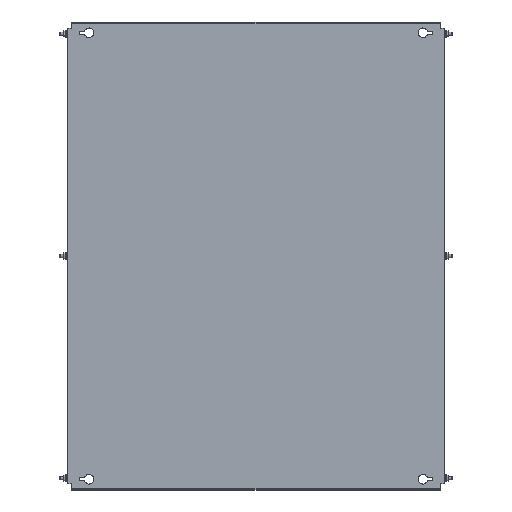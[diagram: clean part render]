
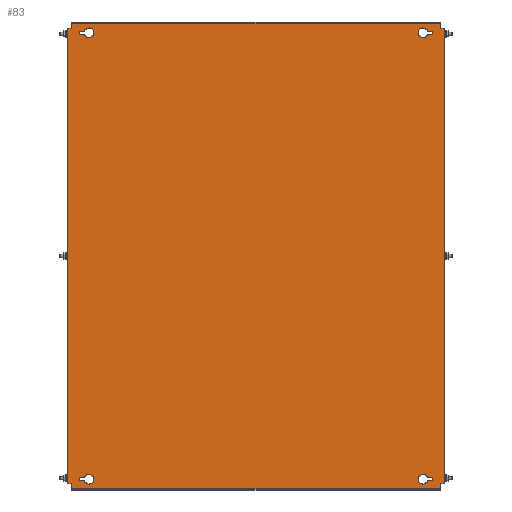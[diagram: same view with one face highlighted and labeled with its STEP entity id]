
A CAD part, top view. The second image highlights one B-rep face of the part: STEP entity #83.
In plain terms, the highlighted planar face has unit normal (0, 0, 1).
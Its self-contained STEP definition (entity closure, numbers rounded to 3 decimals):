
#83 = ADVANCED_FACE('',(#84,#119,#154,#316,#351),#386,.T.);
#84 = FACE_BOUND('',#85,.T.);
#85 = EDGE_LOOP('',(#86,#96,#104,#112));
#86 = ORIENTED_EDGE('',*,*,#87,.T.);
#87 = EDGE_CURVE('',#88,#90,#92,.T.);
#88 = VERTEX_POINT('',#89);
#89 = CARTESIAN_POINT('',(318.393,417.75,2.));
#90 = VERTEX_POINT('',#91);
#91 = CARTESIAN_POINT('',(328.,417.75,2.));
#92 = LINE('',#93,#94);
#93 = CARTESIAN_POINT('',(327.,417.75,2.));
#94 = VECTOR('',#95,1.);
#95 = DIRECTION('',(1.,0.,0.));
#96 = ORIENTED_EDGE('',*,*,#97,.T.);
#97 = EDGE_CURVE('',#90,#98,#100,.T.);
#98 = VERTEX_POINT('',#99);
#99 = CARTESIAN_POINT('',(328.,411.25,2.));
#100 = LINE('',#101,#102);
#101 = CARTESIAN_POINT('',(328.,417.75,2.));
#102 = VECTOR('',#103,1.);
#103 = DIRECTION('',(0.,-1.,0.));
#104 = ORIENTED_EDGE('',*,*,#105,.T.);
#105 = EDGE_CURVE('',#98,#106,#108,.T.);
#106 = VERTEX_POINT('',#107);
#107 = CARTESIAN_POINT('',(318.393,411.25,2.));
#108 = LINE('',#109,#110);
#109 = CARTESIAN_POINT('',(327.,411.25,2.));
#110 = VECTOR('',#111,1.);
#111 = DIRECTION('',(-1.,0.,0.));
#112 = ORIENTED_EDGE('',*,*,#113,.T.);
#113 = EDGE_CURVE('',#106,#88,#114,.T.);
#114 = CIRCLE('',#115,9.);
#115 = AXIS2_PLACEMENT_3D('',#116,#117,#118);
#116 = CARTESIAN_POINT('',(310.,414.5,2.));
#117 = DIRECTION('',(0.,0.,-1.));
#118 = DIRECTION('',(1.,0.,0.));
#119 = FACE_BOUND('',#120,.T.);
#120 = EDGE_LOOP('',(#121,#131,#139,#147));
#121 = ORIENTED_EDGE('',*,*,#122,.T.);
#122 = EDGE_CURVE('',#123,#125,#127,.T.);
#123 = VERTEX_POINT('',#124);
#124 = CARTESIAN_POINT('',(-318.393,-417.75,2.));
#125 = VERTEX_POINT('',#126);
#126 = CARTESIAN_POINT('',(-328.,-417.75,2.));
#127 = LINE('',#128,#129);
#128 = CARTESIAN_POINT('',(-327.,-417.75,2.));
#129 = VECTOR('',#130,1.);
#130 = DIRECTION('',(-1.,0.,0.));
#131 = ORIENTED_EDGE('',*,*,#132,.T.);
#132 = EDGE_CURVE('',#125,#133,#135,.T.);
#133 = VERTEX_POINT('',#134);
#134 = CARTESIAN_POINT('',(-328.,-411.25,2.));
#135 = LINE('',#136,#137);
#136 = CARTESIAN_POINT('',(-328.,-417.75,2.));
#137 = VECTOR('',#138,1.);
#138 = DIRECTION('',(0.,1.,0.));
#139 = ORIENTED_EDGE('',*,*,#140,.T.);
#140 = EDGE_CURVE('',#133,#141,#143,.T.);
#141 = VERTEX_POINT('',#142);
#142 = CARTESIAN_POINT('',(-318.393,-411.25,2.));
#143 = LINE('',#144,#145);
#144 = CARTESIAN_POINT('',(-327.,-411.25,2.));
#145 = VECTOR('',#146,1.);
#146 = DIRECTION('',(1.,-0.,-0.));
#147 = ORIENTED_EDGE('',*,*,#148,.T.);
#148 = EDGE_CURVE('',#141,#123,#149,.T.);
#149 = CIRCLE('',#150,9.);
#150 = AXIS2_PLACEMENT_3D('',#151,#152,#153);
#151 = CARTESIAN_POINT('',(-310.,-414.5,2.));
#152 = DIRECTION('',(0.,0.,-1.));
#153 = DIRECTION('',(-1.,0.,0.));
#154 = FACE_BOUND('',#155,.T.);
#155 = EDGE_LOOP('',(#156,#166,#174,#182,#190,#198,#206,#214,#222,#230,
    #238,#246,#254,#262,#270,#278,#286,#294,#302,#310));
#156 = ORIENTED_EDGE('',*,*,#157,.F.);
#157 = EDGE_CURVE('',#158,#160,#162,.T.);
#158 = VERTEX_POINT('',#159);
#159 = CARTESIAN_POINT('',(-347.4,422.5,2.));
#160 = VERTEX_POINT('',#161);
#161 = CARTESIAN_POINT('',(-342.,422.5,2.));
#162 = LINE('',#163,#164);
#163 = CARTESIAN_POINT('',(-348.,422.5,2.));
#164 = VECTOR('',#165,1.);
#165 = DIRECTION('',(1.,0.,-0.));
#166 = ORIENTED_EDGE('',*,*,#167,.T.);
#167 = EDGE_CURVE('',#158,#168,#170,.T.);
#168 = VERTEX_POINT('',#169);
#169 = CARTESIAN_POINT('',(-350.,422.5,2.));
#170 = LINE('',#171,#172);
#171 = CARTESIAN_POINT('',(-347.4,422.5,2.));
#172 = VECTOR('',#173,1.);
#173 = DIRECTION('',(-1.,0.,0.));
#174 = ORIENTED_EDGE('',*,*,#175,.F.);
#175 = EDGE_CURVE('',#176,#168,#178,.T.);
#176 = VERTEX_POINT('',#177);
#177 = CARTESIAN_POINT('',(-350.,-422.5,2.));
#178 = LINE('',#179,#180);
#179 = CARTESIAN_POINT('',(-350.,-432.5,2.));
#180 = VECTOR('',#181,1.);
#181 = DIRECTION('',(0.,1.,-0.));
#182 = ORIENTED_EDGE('',*,*,#183,.F.);
#183 = EDGE_CURVE('',#184,#176,#186,.T.);
#184 = VERTEX_POINT('',#185);
#185 = CARTESIAN_POINT('',(-347.4,-422.5,2.));
#186 = LINE('',#187,#188);
#187 = CARTESIAN_POINT('',(-342.,-422.5,2.));
#188 = VECTOR('',#189,1.);
#189 = DIRECTION('',(-1.,-0.,-0.));
#190 = ORIENTED_EDGE('',*,*,#191,.T.);
#191 = EDGE_CURVE('',#184,#192,#194,.T.);
#192 = VERTEX_POINT('',#193);
#193 = CARTESIAN_POINT('',(-342.,-422.5,2.));
#194 = LINE('',#195,#196);
#195 = CARTESIAN_POINT('',(-348.,-422.5,2.));
#196 = VECTOR('',#197,1.);
#197 = DIRECTION('',(1.,0.,-0.));
#198 = ORIENTED_EDGE('',*,*,#199,.T.);
#199 = EDGE_CURVE('',#192,#200,#202,.T.);
#200 = VERTEX_POINT('',#201);
#201 = CARTESIAN_POINT('',(-342.,-431.9,2.));
#202 = LINE('',#203,#204);
#203 = CARTESIAN_POINT('',(-342.,432.5,2.));
#204 = VECTOR('',#205,1.);
#205 = DIRECTION('',(0.,-1.,0.));
#206 = ORIENTED_EDGE('',*,*,#207,.T.);
#207 = EDGE_CURVE('',#200,#208,#210,.T.);
#208 = VERTEX_POINT('',#209);
#209 = CARTESIAN_POINT('',(-342.,-432.5,2.));
#210 = LINE('',#211,#212);
#211 = CARTESIAN_POINT('',(-342.,-431.9,2.));
#212 = VECTOR('',#213,1.);
#213 = DIRECTION('',(-0.,-1.,-0.));
#214 = ORIENTED_EDGE('',*,*,#215,.T.);
#215 = EDGE_CURVE('',#208,#216,#218,.T.);
#216 = VERTEX_POINT('',#217);
#217 = CARTESIAN_POINT('',(342.,-432.5,2.));
#218 = LINE('',#219,#220);
#219 = CARTESIAN_POINT('',(342.,-432.5,2.));
#220 = VECTOR('',#221,1.);
#221 = DIRECTION('',(1.,0.,0.));
#222 = ORIENTED_EDGE('',*,*,#223,.F.);
#223 = EDGE_CURVE('',#224,#216,#226,.T.);
#224 = VERTEX_POINT('',#225);
#225 = CARTESIAN_POINT('',(342.,-431.9,2.));
#226 = LINE('',#227,#228);
#227 = CARTESIAN_POINT('',(342.,-432.5,2.));
#228 = VECTOR('',#229,1.);
#229 = DIRECTION('',(0.,-1.,0.));
#230 = ORIENTED_EDGE('',*,*,#231,.T.);
#231 = EDGE_CURVE('',#224,#232,#234,.T.);
#232 = VERTEX_POINT('',#233);
#233 = CARTESIAN_POINT('',(342.,-422.5,2.));
#234 = LINE('',#235,#236);
#235 = CARTESIAN_POINT('',(342.,432.5,2.));
#236 = VECTOR('',#237,1.);
#237 = DIRECTION('',(0.,1.,-0.));
#238 = ORIENTED_EDGE('',*,*,#239,.F.);
#239 = EDGE_CURVE('',#240,#232,#242,.T.);
#240 = VERTEX_POINT('',#241);
#241 = CARTESIAN_POINT('',(347.4,-422.5,2.));
#242 = LINE('',#243,#244);
#243 = CARTESIAN_POINT('',(348.,-422.5,2.));
#244 = VECTOR('',#245,1.);
#245 = DIRECTION('',(-1.,0.,-0.));
#246 = ORIENTED_EDGE('',*,*,#247,.T.);
#247 = EDGE_CURVE('',#240,#248,#250,.T.);
#248 = VERTEX_POINT('',#249);
#249 = CARTESIAN_POINT('',(350.,-422.5,2.));
#250 = LINE('',#251,#252);
#251 = CARTESIAN_POINT('',(347.4,-422.5,2.));
#252 = VECTOR('',#253,1.);
#253 = DIRECTION('',(1.,-0.,0.));
#254 = ORIENTED_EDGE('',*,*,#255,.F.);
#255 = EDGE_CURVE('',#256,#248,#258,.T.);
#256 = VERTEX_POINT('',#257);
#257 = CARTESIAN_POINT('',(350.,422.5,2.));
#258 = LINE('',#259,#260);
#259 = CARTESIAN_POINT('',(350.,-432.5,2.));
#260 = VECTOR('',#261,1.);
#261 = DIRECTION('',(0.,-1.,-0.));
#262 = ORIENTED_EDGE('',*,*,#263,.F.);
#263 = EDGE_CURVE('',#264,#256,#266,.T.);
#264 = VERTEX_POINT('',#265);
#265 = CARTESIAN_POINT('',(347.4,422.5,2.));
#266 = LINE('',#267,#268);
#267 = CARTESIAN_POINT('',(-342.,422.5,2.));
#268 = VECTOR('',#269,1.);
#269 = DIRECTION('',(1.,-0.,0.));
#270 = ORIENTED_EDGE('',*,*,#271,.T.);
#271 = EDGE_CURVE('',#264,#272,#274,.T.);
#272 = VERTEX_POINT('',#273);
#273 = CARTESIAN_POINT('',(342.,422.5,2.));
#274 = LINE('',#275,#276);
#275 = CARTESIAN_POINT('',(348.,422.5,2.));
#276 = VECTOR('',#277,1.);
#277 = DIRECTION('',(-1.,0.,-0.));
#278 = ORIENTED_EDGE('',*,*,#279,.T.);
#279 = EDGE_CURVE('',#272,#280,#282,.T.);
#280 = VERTEX_POINT('',#281);
#281 = CARTESIAN_POINT('',(342.,431.9,2.));
#282 = LINE('',#283,#284);
#283 = CARTESIAN_POINT('',(342.,432.5,2.));
#284 = VECTOR('',#285,1.);
#285 = DIRECTION('',(0.,1.,-0.));
#286 = ORIENTED_EDGE('',*,*,#287,.T.);
#287 = EDGE_CURVE('',#280,#288,#290,.T.);
#288 = VERTEX_POINT('',#289);
#289 = CARTESIAN_POINT('',(342.,432.5,2.));
#290 = LINE('',#291,#292);
#291 = CARTESIAN_POINT('',(342.,431.9,2.));
#292 = VECTOR('',#293,1.);
#293 = DIRECTION('',(-0.,1.,-0.));
#294 = ORIENTED_EDGE('',*,*,#295,.T.);
#295 = EDGE_CURVE('',#288,#296,#298,.T.);
#296 = VERTEX_POINT('',#297);
#297 = CARTESIAN_POINT('',(-342.,432.5,2.));
#298 = LINE('',#299,#300);
#299 = CARTESIAN_POINT('',(-342.,432.5,2.));
#300 = VECTOR('',#301,1.);
#301 = DIRECTION('',(-1.,0.,0.));
#302 = ORIENTED_EDGE('',*,*,#303,.F.);
#303 = EDGE_CURVE('',#304,#296,#306,.T.);
#304 = VERTEX_POINT('',#305);
#305 = CARTESIAN_POINT('',(-342.,431.9,2.));
#306 = LINE('',#307,#308);
#307 = CARTESIAN_POINT('',(-342.,-432.5,2.));
#308 = VECTOR('',#309,1.);
#309 = DIRECTION('',(0.,1.,-0.));
#310 = ORIENTED_EDGE('',*,*,#311,.T.);
#311 = EDGE_CURVE('',#304,#160,#312,.T.);
#312 = LINE('',#313,#314);
#313 = CARTESIAN_POINT('',(-342.,432.5,2.));
#314 = VECTOR('',#315,1.);
#315 = DIRECTION('',(0.,-1.,0.));
#316 = FACE_BOUND('',#317,.T.);
#317 = EDGE_LOOP('',(#318,#328,#336,#344));
#318 = ORIENTED_EDGE('',*,*,#319,.F.);
#319 = EDGE_CURVE('',#320,#322,#324,.T.);
#320 = VERTEX_POINT('',#321);
#321 = CARTESIAN_POINT('',(328.,-411.25,2.));
#322 = VERTEX_POINT('',#323);
#323 = CARTESIAN_POINT('',(318.393,-411.25,2.));
#324 = LINE('',#325,#326);
#325 = CARTESIAN_POINT('',(318.393,-411.25,2.));
#326 = VECTOR('',#327,1.);
#327 = DIRECTION('',(-1.,0.,0.));
#328 = ORIENTED_EDGE('',*,*,#329,.F.);
#329 = EDGE_CURVE('',#330,#320,#332,.T.);
#330 = VERTEX_POINT('',#331);
#331 = CARTESIAN_POINT('',(328.,-417.75,2.));
#332 = LINE('',#333,#334);
#333 = CARTESIAN_POINT('',(328.,-411.25,2.));
#334 = VECTOR('',#335,1.);
#335 = DIRECTION('',(0.,1.,0.));
#336 = ORIENTED_EDGE('',*,*,#337,.F.);
#337 = EDGE_CURVE('',#338,#330,#340,.T.);
#338 = VERTEX_POINT('',#339);
#339 = CARTESIAN_POINT('',(318.393,-417.75,2.));
#340 = LINE('',#341,#342);
#341 = CARTESIAN_POINT('',(327.,-417.75,2.));
#342 = VECTOR('',#343,1.);
#343 = DIRECTION('',(1.,0.,0.));
#344 = ORIENTED_EDGE('',*,*,#345,.F.);
#345 = EDGE_CURVE('',#322,#338,#346,.T.);
#346 = CIRCLE('',#347,9.);
#347 = AXIS2_PLACEMENT_3D('',#348,#349,#350);
#348 = CARTESIAN_POINT('',(310.,-414.5,2.));
#349 = DIRECTION('',(0.,-0.,1.));
#350 = DIRECTION('',(1.,0.,0.));
#351 = FACE_BOUND('',#352,.T.);
#352 = EDGE_LOOP('',(#353,#363,#371,#379));
#353 = ORIENTED_EDGE('',*,*,#354,.F.);
#354 = EDGE_CURVE('',#355,#357,#359,.T.);
#355 = VERTEX_POINT('',#356);
#356 = CARTESIAN_POINT('',(-328.,411.25,2.));
#357 = VERTEX_POINT('',#358);
#358 = CARTESIAN_POINT('',(-318.393,411.25,2.));
#359 = LINE('',#360,#361);
#360 = CARTESIAN_POINT('',(-318.393,411.25,2.));
#361 = VECTOR('',#362,1.);
#362 = DIRECTION('',(1.,0.,0.));
#363 = ORIENTED_EDGE('',*,*,#364,.F.);
#364 = EDGE_CURVE('',#365,#355,#367,.T.);
#365 = VERTEX_POINT('',#366);
#366 = CARTESIAN_POINT('',(-328.,417.75,2.));
#367 = LINE('',#368,#369);
#368 = CARTESIAN_POINT('',(-328.,411.25,2.));
#369 = VECTOR('',#370,1.);
#370 = DIRECTION('',(0.,-1.,0.));
#371 = ORIENTED_EDGE('',*,*,#372,.F.);
#372 = EDGE_CURVE('',#373,#365,#375,.T.);
#373 = VERTEX_POINT('',#374);
#374 = CARTESIAN_POINT('',(-318.393,417.75,2.));
#375 = LINE('',#376,#377);
#376 = CARTESIAN_POINT('',(-327.,417.75,2.));
#377 = VECTOR('',#378,1.);
#378 = DIRECTION('',(-1.,0.,0.));
#379 = ORIENTED_EDGE('',*,*,#380,.F.);
#380 = EDGE_CURVE('',#357,#373,#381,.T.);
#381 = CIRCLE('',#382,9.);
#382 = AXIS2_PLACEMENT_3D('',#383,#384,#385);
#383 = CARTESIAN_POINT('',(-310.,414.5,2.));
#384 = DIRECTION('',(0.,-0.,1.));
#385 = DIRECTION('',(-1.,0.,0.));
#386 = PLANE('',#387);
#387 = AXIS2_PLACEMENT_3D('',#388,#389,#390);
#388 = CARTESIAN_POINT('',(-342.,-432.5,2.));
#389 = DIRECTION('',(-0.,0.,1.));
#390 = DIRECTION('',(1.,0.,0.));
